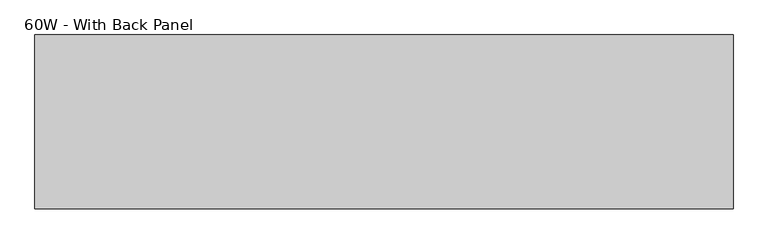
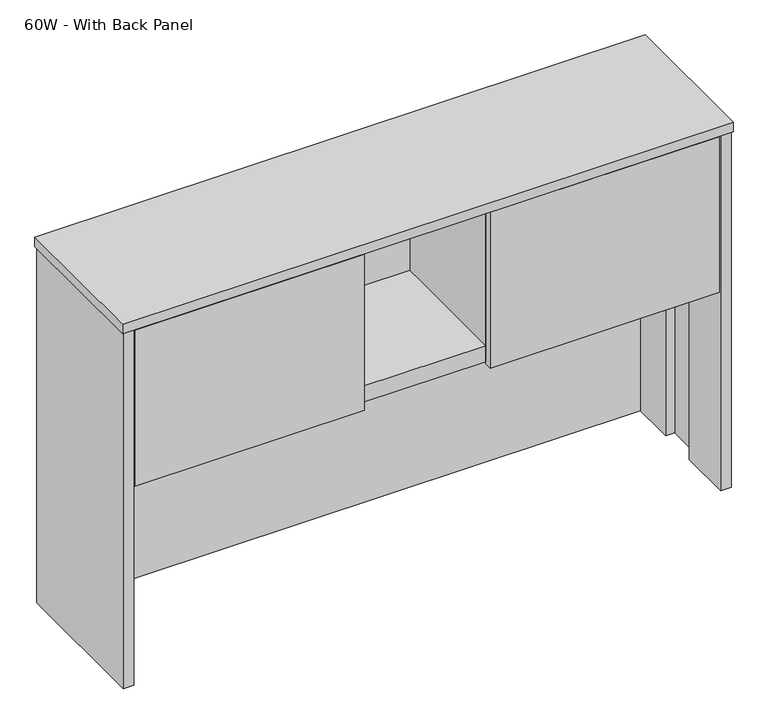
"""IFC4 building model written with IfcOpenShell, lengths in millimetres: furniture geometry, Steelcase - Kick Freestanding - Overhead Storage Cabinet With Hinge Door : 60W - With Back Panel."""

from ifc_helpers import new_model, si_unit, frame, origin, place, context, project, spatial, polyline, outline, extrude, source, transform, mapped, element, save


def furniture_60w_with_back_panel_2b79aa42(model_context):
    return source(origin(), model_context, "Body", "SweptSolid", [
        extrude(outline(polyline([(606.2138992, -377.8250114), (593.5138992, -377.8250114), (593.5138992, -53.9789719), (606.2138992, -53.9789719), (606.2138992, -377.8250114)])), frame((0.0, 0.0, 1018.943073), z_axis=(0.0, 0.0, 1.0), x_axis=(1.0, 0.0, 0.0)), (0.0, 0.0, 1.0), 403.225),
        extrude(outline(polyline([(917.3638992, -377.8250114), (917.3638992, -53.9789719), (930.0638992, -53.9789719), (930.0638992, -377.8250114), (917.3638992, -377.8250114)])), frame((0.0, 0.0, 1018.943073), z_axis=(0.0, 0.0, 1.0), x_axis=(1.0, 0.0, 0.0)), (0.0, 0.0, 1.0), 403.225),
        extrude(outline(polyline([(1485.5618992, -28.5781763), (1511.0872195, -28.5781763), (1511.0872195, -396.8781725), (1485.5618992, -396.8781725), (1485.5618992, -263.5281725), (1507.9122191, -263.5281725), (1507.9122191, -161.9281786), (1485.5618992, -161.9281786), (1485.5618992, -28.5781763)])), frame((0.0, 0.0, 495.068073), z_axis=(0.0, 0.0, 1.0), x_axis=(1.0, 0.0, 0.0)), (0.0, 0.0, 1.0), 927.1),
        extrude(outline(polyline([(917.3638992, -377.8250114), (1482.5126896, -377.8250114), (1482.5126896, -396.8750114), (917.3638992, -396.8750114), (917.3638992, -377.8250114)])), frame((0.0, 0.0, 1012.5930246), z_axis=(0.0, 0.0, 1.0), x_axis=(1.0, 0.0, 0.0)), (0.0, 0.0, 1.0), 406.4000484),
        extrude(outline(polyline([(917.3639098, -377.8250114), (606.2138992, -377.8250114), (606.2138992, -53.9789719), (917.3639098, -53.9789719), (917.3639098, -377.8250114)])), frame((0.0, 0.0, 1018.943073), z_axis=(0.0, 0.0, 1.0), x_axis=(1.0, 0.0, 0.0)), (0.0, 0.0, 1.0), 41.2749516),
        extrude(outline(polyline([(606.2138992, -377.8250114), (606.2138992, -396.8750114), (41.0639007, -396.8750114), (41.0639007, -377.8250114), (606.2138992, -377.8250114)])), frame((0.0, 0.0, 1012.5930246), z_axis=(0.0, 0.0, 1.0), x_axis=(1.0, 0.0, 0.0)), (0.0, 0.0, 1.0), 406.4000484),
        extrude(outline(polyline([(1485.5618992, -53.9789719), (38.0158992, -53.9789719), (38.0158992, -28.5789734), (1485.5618992, -28.5789734), (1485.5618992, -53.9789719)])), frame((0.0, 0.0, 495.068073), z_axis=(0.0, 0.0, 1.0), x_axis=(1.0, 0.0, 0.0)), (0.0, 0.0, 1.0), 927.1),
        extrude(outline(polyline([(38.0158992, -28.5781763), (38.0158992, -161.9281786), (15.6638988, -161.9281786), (15.6638988, -263.5281725), (38.0158992, -263.5281725), (38.0158992, -396.8781725), (12.4888985, -396.8781725), (12.4888985, -28.5781763), (38.0158992, -28.5781763)])), frame((0.0, 0.0, 495.068073), z_axis=(0.0, 0.0, 1.0), x_axis=(1.0, 0.0, 0.0)), (0.0, 0.0, 1.0), 927.1),
        extrude(outline(polyline([(1514.2638992, -25.4), (1514.2638992, -400.05), (9.3138992, -400.05), (9.3138992, -25.4), (1514.2638992, -25.4)])), frame((0.0, 0.0, 1422.168073), z_axis=(0.0, 0.0, 1.0), x_axis=(1.0, 0.0, 0.0)), (0.0, 0.0, 1.0), 25.4),
    ])


if __name__ == "__main__":
    model = new_model("IFC4")
    model_context = context("Model", 3, world=origin())
    ifc_project = project(units=[si_unit("LENGTHUNIT", "METRE", prefix="MILLI")], contexts=[model_context])
    site = spatial("IfcSite", under=ifc_project)
    building = spatial("IfcBuilding", under=site)
    placement = place(None, origin())
    furniture_60w_with_back_panel_shape = furniture_60w_with_back_panel_2b79aa42(model_context)
    element("IfcFurniture", 1, ObjectType="Steelcase - Kick Freestanding - Overhead Storage Cabinet With Hinge Door : 60W - With Back Panel", at=placement, inside=building, context=model_context, shape_type="MappedRepresentation", body=[
        mapped(furniture_60w_with_back_panel_shape, transform((0.0, 0.0, 0.0), x_axis=(1.0, 0.0, 0.0), y_axis=(0.0, 1.0, 0.0), z_axis=(0.0, 0.0, 1.0))),
    ])
    save(model, "model.ifc")
